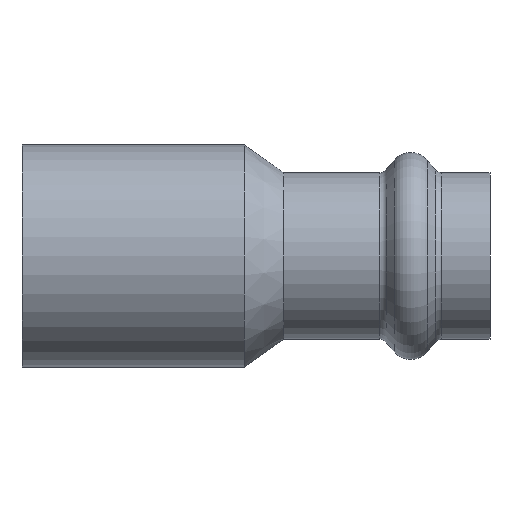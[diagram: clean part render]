
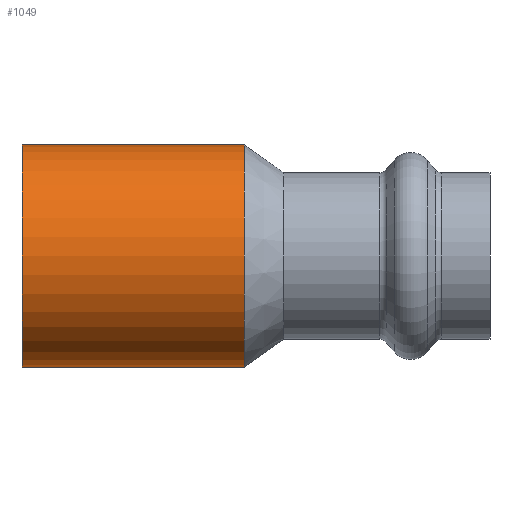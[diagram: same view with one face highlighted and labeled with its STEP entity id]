
A CAD part, front view. The second image highlights one B-rep face of the part: STEP entity #1049.
In plain terms, the highlighted cylindrical face has radius 14 mm (diameter 28 mm), a partial arc.
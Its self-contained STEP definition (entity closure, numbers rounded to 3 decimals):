
#45 = DIRECTION ( 'NONE',  ( -1., 0., 0. ) ) ;
#56 = CARTESIAN_POINT ( 'NONE',  ( 28., 0., 0. ) ) ;
#113 = CARTESIAN_POINT ( 'NONE',  ( -4.079, 0., 0. ) ) ;
#116 = CARTESIAN_POINT ( 'NONE',  ( 0., 0., 0. ) ) ;
#136 = DIRECTION ( 'NONE',  ( 0., 0., 1. ) ) ;
#160 = VERTEX_POINT ( 'NONE', #475 ) ;
#168 = FACE_OUTER_BOUND ( 'NONE', #552, .T. ) ;
#249 = CIRCLE ( 'NONE', #572, 14. ) ;
#260 = EDGE_CURVE ( 'NONE', #510, #160, #532, .T. ) ;
#270 = CARTESIAN_POINT ( 'NONE',  ( 0., 0., -14. ) ) ;
#292 = EDGE_CURVE ( 'NONE', #160, #610, #295, .T. ) ;
#295 = LINE ( 'NONE', #468, #700 ) ;
#300 = DIRECTION ( 'NONE',  ( -1., 0., 0. ) ) ;
#309 = DIRECTION ( 'NONE',  ( -1., 0., 0. ) ) ;
#322 = EDGE_CURVE ( 'NONE', #510, #877, #897, .T. ) ;
#330 = ORIENTED_EDGE ( 'NONE', *, *, #260, .T. ) ;
#354 = ORIENTED_EDGE ( 'NONE', *, *, #292, .T. ) ;
#423 = AXIS2_PLACEMENT_3D ( 'NONE', #56, #561, #1024 ) ;
#468 = CARTESIAN_POINT ( 'NONE',  ( -4.079, 0., 14. ) ) ;
#475 = CARTESIAN_POINT ( 'NONE',  ( 28., 0., 14. ) ) ;
#510 = VERTEX_POINT ( 'NONE', #955 ) ;
#532 = CIRCLE ( 'NONE', #423, 14. ) ;
#536 = ORIENTED_EDGE ( 'NONE', *, *, #1039, .F. ) ;
#539 = ORIENTED_EDGE ( 'NONE', *, *, #322, .F. ) ;
#552 = EDGE_LOOP ( 'NONE', ( #539, #330, #354, #536 ) ) ;
#561 = DIRECTION ( 'NONE',  ( -1., 0., 0. ) ) ;
#572 = AXIS2_PLACEMENT_3D ( 'NONE', #116, #309, #136 ) ;
#610 = VERTEX_POINT ( 'NONE', #1026 ) ;
#622 = CARTESIAN_POINT ( 'NONE',  ( -4.079, 0., -14. ) ) ;
#675 = VECTOR ( 'NONE', #45, 1000. ) ;
#696 = DIRECTION ( 'NONE',  ( 0., 0., 1. ) ) ;
#700 = VECTOR ( 'NONE', #300, 1000. ) ;
#766 = AXIS2_PLACEMENT_3D ( 'NONE', #113, #825, #696 ) ;
#825 = DIRECTION ( 'NONE',  ( -1., 0., 0. ) ) ;
#877 = VERTEX_POINT ( 'NONE', #270 ) ;
#897 = LINE ( 'NONE', #622, #675 ) ;
#955 = CARTESIAN_POINT ( 'NONE',  ( 28., 0., -14. ) ) ;
#1024 = DIRECTION ( 'NONE',  ( 0., 0., 1. ) ) ;
#1026 = CARTESIAN_POINT ( 'NONE',  ( 0., 0., 14. ) ) ;
#1039 = EDGE_CURVE ( 'NONE', #877, #610, #249, .T. ) ;
#1049 = ADVANCED_FACE ( 'NONE', ( #168 ), #1061, .T. ) ;
#1061 = CYLINDRICAL_SURFACE ( 'NONE', #766, 14. ) ;
